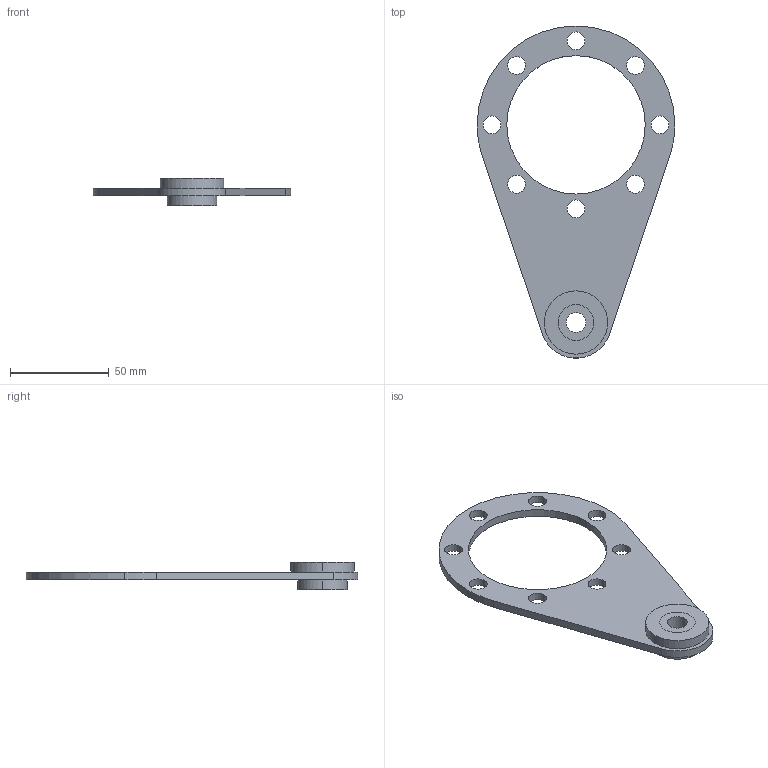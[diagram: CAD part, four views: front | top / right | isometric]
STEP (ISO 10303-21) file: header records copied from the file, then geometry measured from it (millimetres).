
FILE_DESCRIPTION (( 'STEP AP203' ), '1' );
FILE_NAME ('CALM50-TA.STEP', '2014-09-02T03:38:27', ( 'user' ), ( '' ), 'SwSTEP 2.0', 'SolidWorks 2012', '' );
FILE_SCHEMA (( 'CONFIG_CONTROL_DESIGN' ));
Length unit declared in the file: millimetre
Products named in the file (1): CALM50-TA
Bounding box: 100 x 167.94 x 14 mm (x, y, z)
Volume: 34295.1 mm3; surface area: 20701.3 mm2
Topology: 2 solids, 2 shells, 40 faces, 102 edges, 68 vertices
Faces by surface type: cylinder 32, plane 8
Entity records: 1369 total; most frequent: DIRECTION 248, CARTESIAN_POINT 211, ORIENTED_EDGE 204, AXIS2_PLACEMENT_3D 105, EDGE_CURVE 102, VERTEX_POINT 68, CIRCLE 64, EDGE_LOOP 64
